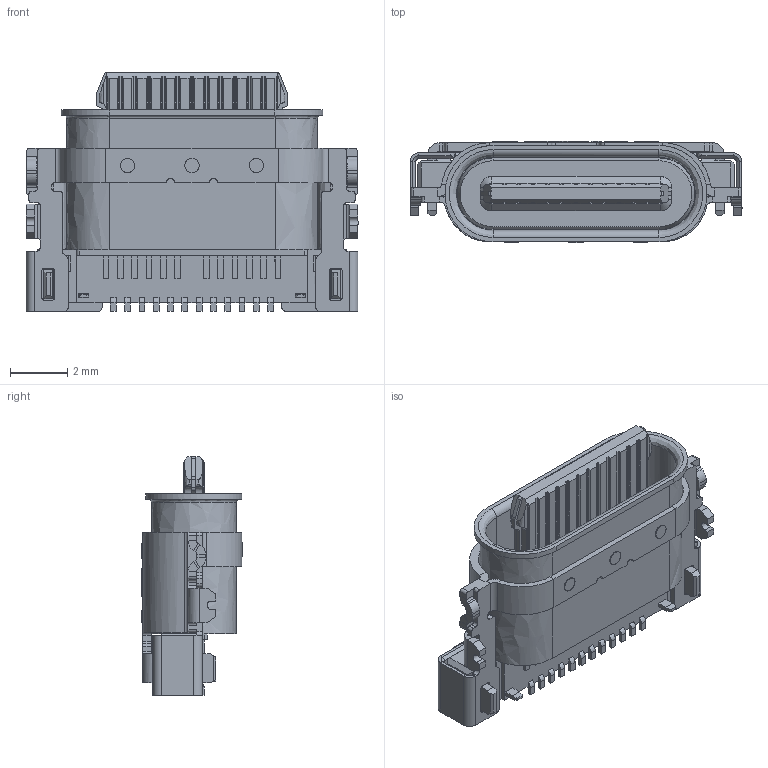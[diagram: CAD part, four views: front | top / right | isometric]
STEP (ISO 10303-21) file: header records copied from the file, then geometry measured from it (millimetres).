
FILE_DESCRIPTION (( 'STEP AP203' ), '1' );
FILE_NAME ('GT-USB-7093A.STEP', '2023-05-27T09:05:21', ( '' ), ( '' ), 'SwSTEP 2.0', 'SolidWorks 2023', '' );
FILE_SCHEMA (( 'CONFIG_CONTROL_DESIGN' ));
Length unit declared in the file: millimetre
Products named in the file (1): GT-USB-7093A
Bounding box: 11.6 x 3.54 x 8.35 mm (x, y, z)
Volume: 128.3 mm3; surface area: 554.5 mm2
Topology: 15 solids, 15 shells, 1256 faces, 3300 edges, 2078 vertices
Faces by surface type: bspline 1071, plane 185
Entity records: 41275 total; most frequent: CARTESIAN_POINT 19670, ORIENTED_EDGE 6600, EDGE_CURVE 3300, B_SPLINE_CURVE_WITH_KNOTS 2426, VERTEX_POINT 2078, EDGE_LOOP 1288, FACE_OUTER_BOUND 1256, ADVANCED_FACE 1256
